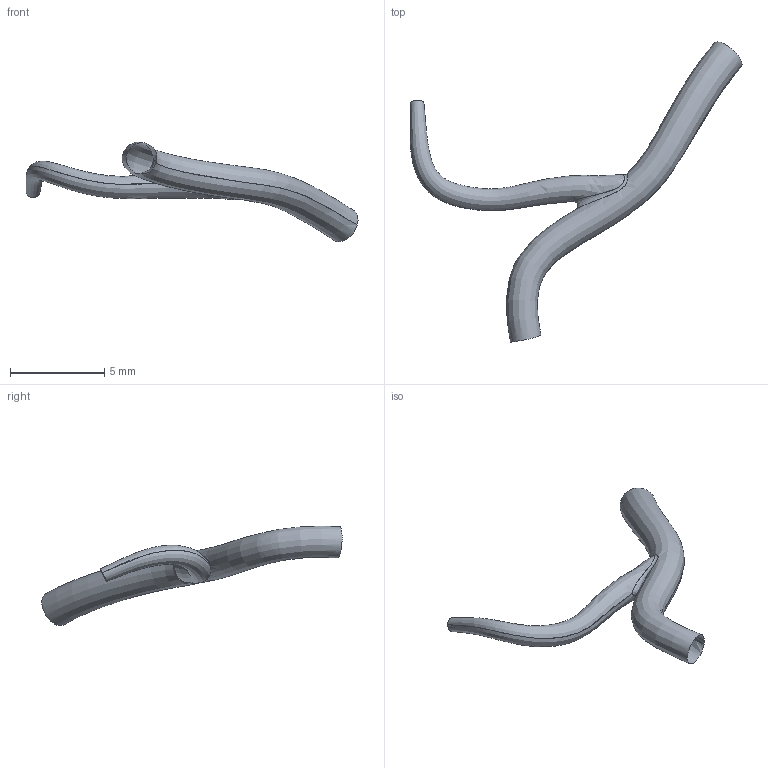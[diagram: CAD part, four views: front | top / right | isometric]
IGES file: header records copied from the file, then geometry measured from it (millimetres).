
Global section: file name: C:\Documents and Settings\Administrator\Desktop\FDA-Pig\Domestic RCA\Pig_000004\avc.es.igs; native system: Rhinoceros ( May 19 2006 ); preprocessor: Trout Lake IGES 012 May 19 2006; date: 111205.185009; units: centimetre
Bounding box: 17.66 x 15.97 x 5.29 mm (x, y, z)
Surface area: 160.6 mm2 (no closed solid volume)
Topology: 0 solids, 0 shells, 3 faces, 48 edges, 45 vertices
Faces by surface type: bspline 3
